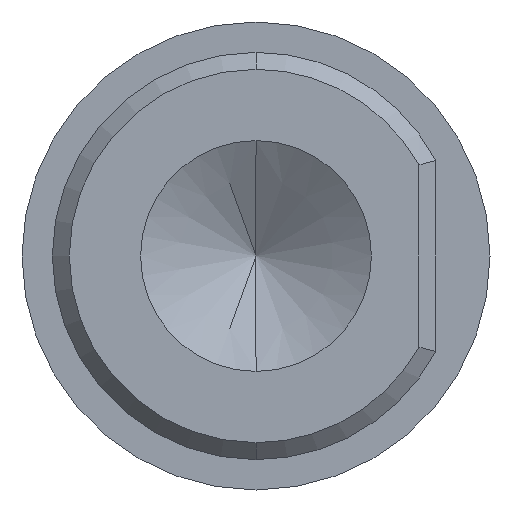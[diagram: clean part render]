
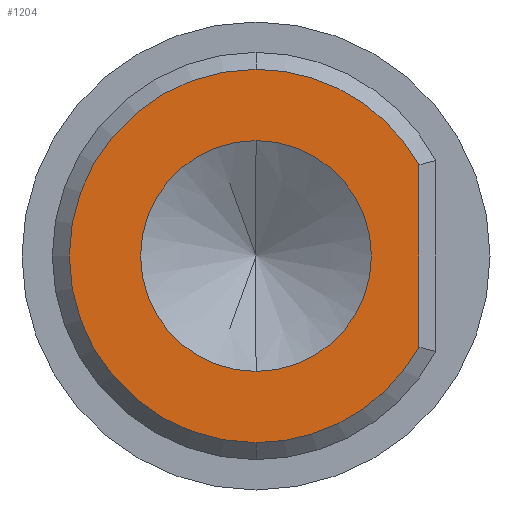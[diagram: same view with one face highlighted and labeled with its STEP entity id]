
A CAD part, front view. The second image highlights one B-rep face of the part: STEP entity #1204.
In plain terms, the highlighted planar face has unit normal (0, -1, 0).
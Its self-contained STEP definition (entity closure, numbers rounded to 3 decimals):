
#20 = ORIENTED_EDGE ( 'NONE', *, *, #2460, .T. ) ;
#23 = AXIS2_PLACEMENT_3D ( 'NONE', #451, #2824, #3060 ) ;
#108 = DIRECTION ( 'NONE',  ( 0., -1., 0. ) ) ;
#242 = CARTESIAN_POINT ( 'NONE',  ( -19.349, -9.539, -5.5 ) ) ;
#269 = ORIENTED_EDGE ( 'NONE', *, *, #998, .F. ) ;
#386 = CARTESIAN_POINT ( 'NONE',  ( -14.549, -9.539, 2.812 ) ) ;
#451 = CARTESIAN_POINT ( 'NONE',  ( -19.349, -9.539, 0. ) ) ;
#476 = CARTESIAN_POINT ( 'NONE',  ( -19.349, -9.539, 0. ) ) ;
#533 = CIRCLE ( 'NONE', #1487, 3.4 ) ;
#591 = CARTESIAN_POINT ( 'NONE',  ( -19.349, -9.539, 0. ) ) ;
#618 = PLANE ( 'NONE',  #23 ) ;
#634 = VERTEX_POINT ( 'NONE', #242 ) ;
#695 = EDGE_CURVE ( 'NONE', #2712, #634, #876, .T. ) ;
#697 = CARTESIAN_POINT ( 'NONE',  ( -19.349, -9.539, 5.5 ) ) ;
#838 = LINE ( 'NONE', #386, #1346 ) ;
#846 = DIRECTION ( 'NONE',  ( 0., 0., -1. ) ) ;
#876 = CIRCLE ( 'NONE', #2999, 5.5 ) ;
#947 = ORIENTED_EDGE ( 'NONE', *, *, #1857, .T. ) ;
#968 = DIRECTION ( 'NONE',  ( 0., 0., -1. ) ) ;
#998 = EDGE_CURVE ( 'NONE', #1830, #1206, #533, .T. ) ;
#1022 = AXIS2_PLACEMENT_3D ( 'NONE', #2276, #108, #846 ) ;
#1135 = EDGE_CURVE ( 'NONE', #1206, #1830, #1652, .T. ) ;
#1141 = CIRCLE ( 'NONE', #1399, 5.5 ) ;
#1186 = CARTESIAN_POINT ( 'NONE',  ( -19.349, -9.539, 0. ) ) ;
#1204 = ADVANCED_FACE ( 'NONE', ( #2306, #2559 ), #618, .T. ) ;
#1206 = VERTEX_POINT ( 'NONE', #2809 ) ;
#1282 = EDGE_LOOP ( 'NONE', ( #2388, #1533, #20, #947 ) ) ;
#1346 = VECTOR ( 'NONE', #1351, 1000. ) ;
#1351 = DIRECTION ( 'NONE',  ( 0., 0., 1. ) ) ;
#1399 = AXIS2_PLACEMENT_3D ( 'NONE', #1738, #2692, #968 ) ;
#1487 = AXIS2_PLACEMENT_3D ( 'NONE', #1186, #2659, #1741 ) ;
#1533 = ORIENTED_EDGE ( 'NONE', *, *, #695, .T. ) ;
#1652 = CIRCLE ( 'NONE', #1022, 3.4 ) ;
#1738 = CARTESIAN_POINT ( 'NONE',  ( -19.349, -9.539, 0. ) ) ;
#1741 = DIRECTION ( 'NONE',  ( 0., 0., -1. ) ) ;
#1792 = EDGE_CURVE ( 'NONE', #2601, #2712, #2949, .T. ) ;
#1830 = VERTEX_POINT ( 'NONE', #2548 ) ;
#1857 = EDGE_CURVE ( 'NONE', #2359, #2601, #838, .T. ) ;
#1937 = DIRECTION ( 'NONE',  ( 0., 0., -1. ) ) ;
#2072 = EDGE_LOOP ( 'NONE', ( #2253, #269 ) ) ;
#2097 = CARTESIAN_POINT ( 'NONE',  ( -14.549, -9.539, -2.685 ) ) ;
#2253 = ORIENTED_EDGE ( 'NONE', *, *, #1135, .F. ) ;
#2276 = CARTESIAN_POINT ( 'NONE',  ( -19.349, -9.539, 0. ) ) ;
#2295 = DIRECTION ( 'NONE',  ( 0., 0., -1. ) ) ;
#2306 = FACE_OUTER_BOUND ( 'NONE', #1282, .T. ) ;
#2359 = VERTEX_POINT ( 'NONE', #2097 ) ;
#2388 = ORIENTED_EDGE ( 'NONE', *, *, #1792, .T. ) ;
#2391 = DIRECTION ( 'NONE',  ( 0., -1., 0. ) ) ;
#2441 = CARTESIAN_POINT ( 'NONE',  ( -14.549, -9.539, 2.685 ) ) ;
#2460 = EDGE_CURVE ( 'NONE', #634, #2359, #1141, .T. ) ;
#2548 = CARTESIAN_POINT ( 'NONE',  ( -19.349, -9.539, 3.4 ) ) ;
#2555 = AXIS2_PLACEMENT_3D ( 'NONE', #476, #2391, #1937 ) ;
#2559 = FACE_BOUND ( 'NONE', #2072, .T. ) ;
#2601 = VERTEX_POINT ( 'NONE', #2441 ) ;
#2659 = DIRECTION ( 'NONE',  ( 0., -1., 0. ) ) ;
#2692 = DIRECTION ( 'NONE',  ( 0., -1., 0. ) ) ;
#2712 = VERTEX_POINT ( 'NONE', #697 ) ;
#2809 = CARTESIAN_POINT ( 'NONE',  ( -19.349, -9.539, -3.4 ) ) ;
#2824 = DIRECTION ( 'NONE',  ( 0., -1., 0. ) ) ;
#2949 = CIRCLE ( 'NONE', #2555, 5.5 ) ;
#2967 = DIRECTION ( 'NONE',  ( 0., -1., 0. ) ) ;
#2999 = AXIS2_PLACEMENT_3D ( 'NONE', #591, #2967, #2295 ) ;
#3060 = DIRECTION ( 'NONE',  ( 0., 0., -1. ) ) ;
